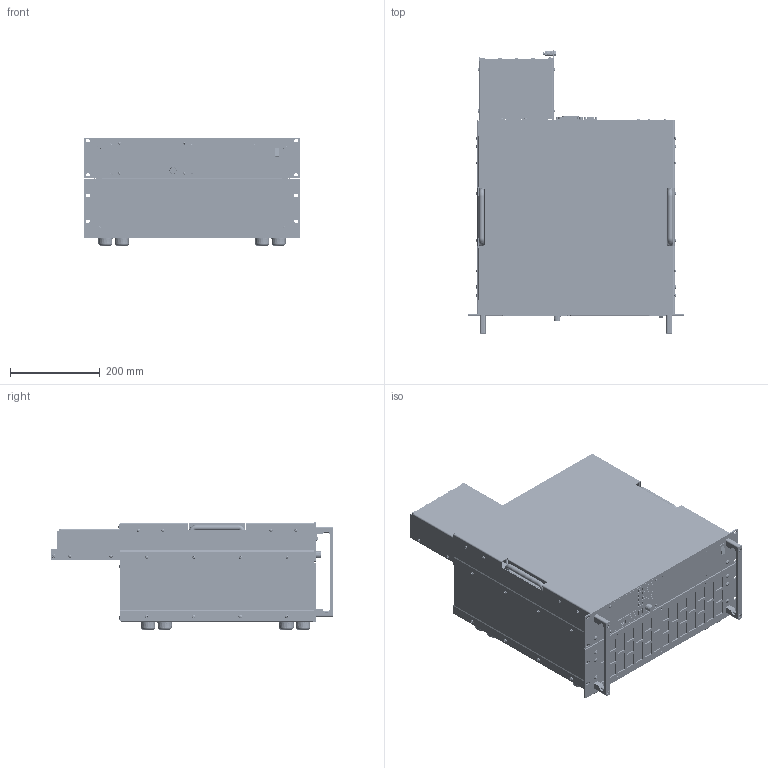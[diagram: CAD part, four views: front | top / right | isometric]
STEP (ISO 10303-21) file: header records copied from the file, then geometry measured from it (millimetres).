
FILE_DESCRIPTION(('STEP AP214'),'1');
FILE_NAME('PLI_M20_19Z_5HE_FKS40_12_SM12_BRB_3D_01.step','2019-02-14T08:26:49',(' '),(' '),'Spatial InterOp 3D',' ',' ');
FILE_SCHEMA(('AUTOMOTIVE_DESIGN { 1 0 10303 214 1 1 1 1 }'));
Length unit declared in the file: millimetre
Products named in the file (1): 1
Bounding box: 482.6 x 631.75 x 239.38 mm (x, y, z)
Volume: 10779093.6 mm3; surface area: 3080356.9 mm2
Topology: 238 solids, 861 shells, 14211 faces, 37479 edges, 24765 vertices
Faces by surface type: plane 6936, cone 4506, cylinder 2335, sphere 214, torus 192, bspline 26, extrusion 2
Entity records: 565590 total; most frequent: CARTESIAN_POINT 81863, DIRECTION 80414, ORIENTED_EDGE 69300, EDGE_CURVE 36548, AXIS2_PLACEMENT_3D 28393, VERTEX_POINT 23638, VECTOR 23628, LINE 23626
